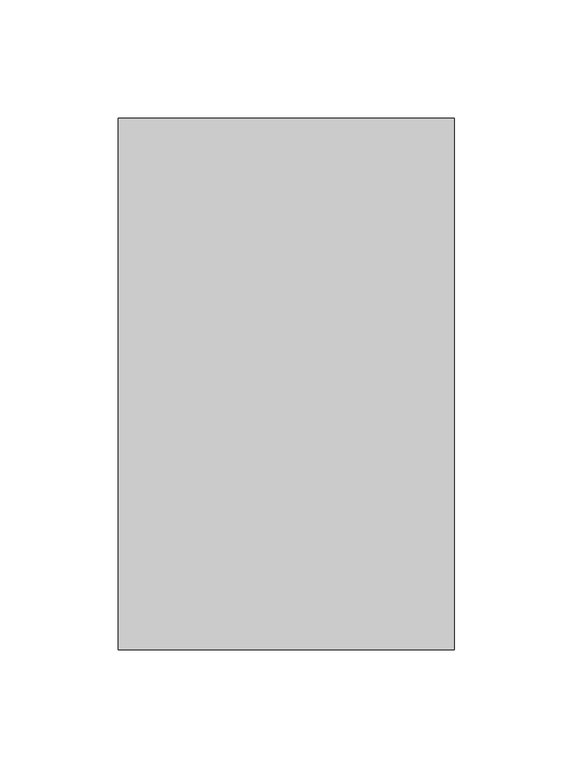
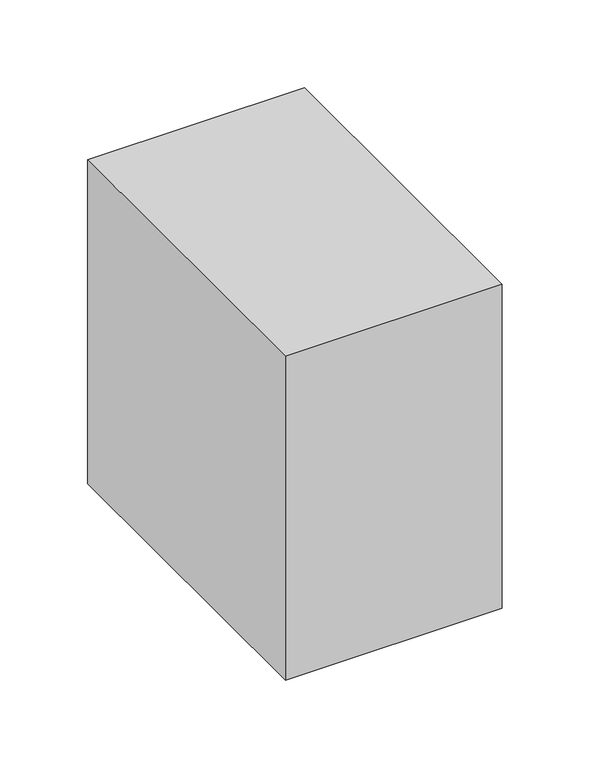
"""IFC4 building model written with IfcOpenShell, lengths in millimetres: duct fitting geometry, M_Encaixe de duto retangular : Padrão."""

from ifc_helpers import new_model, si_unit, frame, origin, place, context, project, spatial, polyline, outline, extrude, source, transform, mapped, element, save


def duct_fitting_570af4ff(model_context):
    return source(origin(), model_context, "Body", "SweptSolid", [
        extrude(outline(polyline([(-40.7365431, -112.5), (-40.7365431, 112.5), (101.6, 112.5), (101.6, -112.5), (-40.7365431, -112.5)])), frame((0.0, 0.0, -112.5), z_axis=(0.0, 0.0, 1.0), x_axis=(1.0, 0.0, 0.0)), (0.0, 0.0, 1.0), 225.0),
    ])


if __name__ == "__main__":
    model = new_model("IFC4")
    model_context = context("Model", 3, world=origin())
    ifc_project = project(units=[si_unit("LENGTHUNIT", "METRE", prefix="MILLI")], contexts=[model_context])
    site = spatial("IfcSite", under=ifc_project)
    building = spatial("IfcBuilding", under=site)
    placement = place(None, origin())
    duct_fitting_shape = duct_fitting_570af4ff(model_context)
    element("IfcDuctFitting", 1, ObjectType="M_Encaixe de duto retangular : Padrão", at=placement, inside=building, context=model_context, shape_type="MappedRepresentation", body=[
        mapped(duct_fitting_shape, transform((0.0, 0.0, 0.0), x_axis=(1.0, 0.0, 0.0), y_axis=(0.0, 1.0, 0.0), z_axis=(0.0, 0.0, 1.0))),
    ])
    save(model, "model.ifc")
